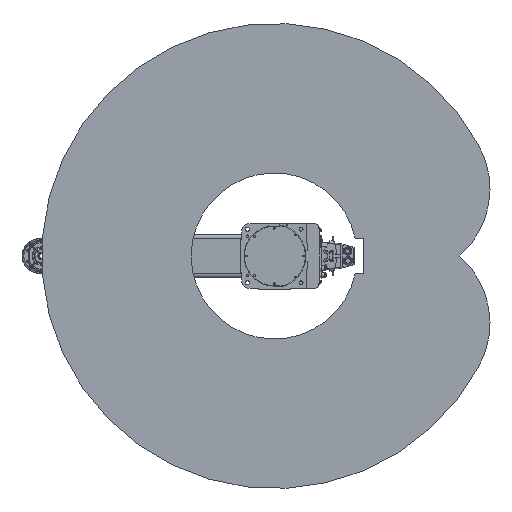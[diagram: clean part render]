
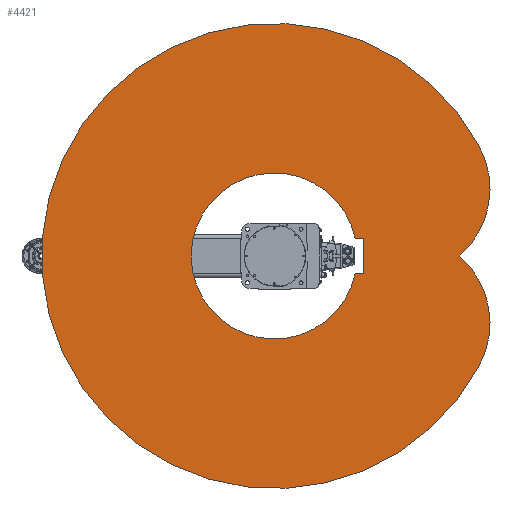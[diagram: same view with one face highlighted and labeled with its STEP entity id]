
A CAD part, front view. The second image highlights one B-rep face of the part: STEP entity #4421.
In plain terms, the highlighted planar face has unit normal (0, -1, 0).
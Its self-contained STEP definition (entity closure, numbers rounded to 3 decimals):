
#4421 = ADVANCED_FACE( '', ( #10954, #10955 ), #10956, .F. );
#10954 = FACE_OUTER_BOUND( '', #20353, .T. );
#10955 = FACE_BOUND( '', #20354, .T. );
#10956 = PLANE( '', #20355 );
#20353 = EDGE_LOOP( '', ( #33929, #33930, #33931 ) );
#20354 = EDGE_LOOP( '', ( #33932, #33933, #33934, #33935 ) );
#20355 = AXIS2_PLACEMENT_3D( '', #33936, #33937, #33938 );
#33929 = ORIENTED_EDGE( '', *, *, #53267, .F. );
#33930 = ORIENTED_EDGE( '', *, *, #50311, .F. );
#33931 = ORIENTED_EDGE( '', *, *, #51089, .F. );
#33932 = ORIENTED_EDGE( '', *, *, #53625, .T. );
#33933 = ORIENTED_EDGE( '', *, *, #53626, .T. );
#33934 = ORIENTED_EDGE( '', *, *, #53627, .T. );
#33935 = ORIENTED_EDGE( '', *, *, #53628, .T. );
#33936 = CARTESIAN_POINT( '', ( 93.894, 0., 176.59 ) );
#33937 = DIRECTION( '', ( 0., 1., 0. ) );
#33938 = DIRECTION( '', ( 0., 0., 1. ) );
#50311 = EDGE_CURVE( '', #59042, #59043, #59044, .T. );
#51089 = EDGE_CURVE( '', #60393, #59042, #60394, .T. );
#53267 = EDGE_CURVE( '', #59043, #60393, #64060, .T. );
#53625 = EDGE_CURVE( '', #64628, #64629, #64630, .T. );
#53626 = EDGE_CURVE( '', #64629, #64631, #64632, .T. );
#53627 = EDGE_CURVE( '', #64631, #64633, #64634, .T. );
#53628 = EDGE_CURVE( '', #64633, #64628, #64635, .T. );
#59042 = VERTEX_POINT( '', #72042 );
#59043 = VERTEX_POINT( '', #72043 );
#59044 = CIRCLE( '', #72044, 250. );
#60393 = VERTEX_POINT( '', #74319 );
#60394 = CIRCLE( '', #74320, 650. );
#64060 = CIRCLE( '', #80420, 250. );
#64628 = VERTEX_POINT( '', #81367 );
#64629 = VERTEX_POINT( '', #81368 );
#64630 = LINE( '', #81369, #81370 );
#64631 = VERTEX_POINT( '', #81371 );
#64632 = LINE( '', #81372, #81373 );
#64633 = VERTEX_POINT( '', #81374 );
#64634 = LINE( '', #81375, #81376 );
#64635 = CIRCLE( '', #81377, 232. );
#72042 = CARTESIAN_POINT( '', ( -305.157, 0., 573.916 ) );
#72043 = CARTESIAN_POINT( '', ( 0., 0., 518.211 ) );
#72044 = AXIS2_PLACEMENT_3D( '', #93077, #93078, #93079 );
#74319 = CARTESIAN_POINT( '', ( 305.157, 0., 573.916 ) );
#74320 = AXIS2_PLACEMENT_3D( '', #94014, #94015, #94016 );
#80420 = AXIS2_PLACEMENT_3D( '', #96851, #96852, #96853 );
#81367 = CARTESIAN_POINT( '', ( -50., 0., 226.548 ) );
#81368 = CARTESIAN_POINT( '', ( -50., 0., 250. ) );
#81369 = CARTESIAN_POINT( '', ( -50., 0., 0. ) );
#81370 = VECTOR( '', #97308, 1000. );
#81371 = CARTESIAN_POINT( '', ( 50., 0., 250. ) );
#81372 = CARTESIAN_POINT( '', ( -50., 0., 250. ) );
#81373 = VECTOR( '', #97309, 1000. );
#81374 = CARTESIAN_POINT( '', ( 50., 0., 226.548 ) );
#81375 = CARTESIAN_POINT( '', ( 50., 0., 250. ) );
#81376 = VECTOR( '', #97310, 1000. );
#81377 = AXIS2_PLACEMENT_3D( '', #97311, #97312, #97313 );
#93077 = CARTESIAN_POINT( '', ( -187.789, 0., 353.179 ) );
#93078 = DIRECTION( '', ( 0., 1., 0. ) );
#93079 = DIRECTION( '', ( 1., 0., 0. ) );
#94014 = CARTESIAN_POINT( '', ( 0., 0., 0. ) );
#94015 = DIRECTION( '', ( 0., 1., 0. ) );
#94016 = DIRECTION( '', ( 1., 0., 0. ) );
#96851 = CARTESIAN_POINT( '', ( 187.789, 0., 353.179 ) );
#96852 = DIRECTION( '', ( 0., 1., 0. ) );
#96853 = DIRECTION( '', ( 1., 0., 0. ) );
#97308 = DIRECTION( '', ( 0., 0., 1. ) );
#97309 = DIRECTION( '', ( 1., 0., 0. ) );
#97310 = DIRECTION( '', ( 0., 0., -1. ) );
#97311 = CARTESIAN_POINT( '', ( 0., 0., 0. ) );
#97312 = DIRECTION( '', ( 0., 1., 0. ) );
#97313 = DIRECTION( '', ( 1., 0., 0. ) );
